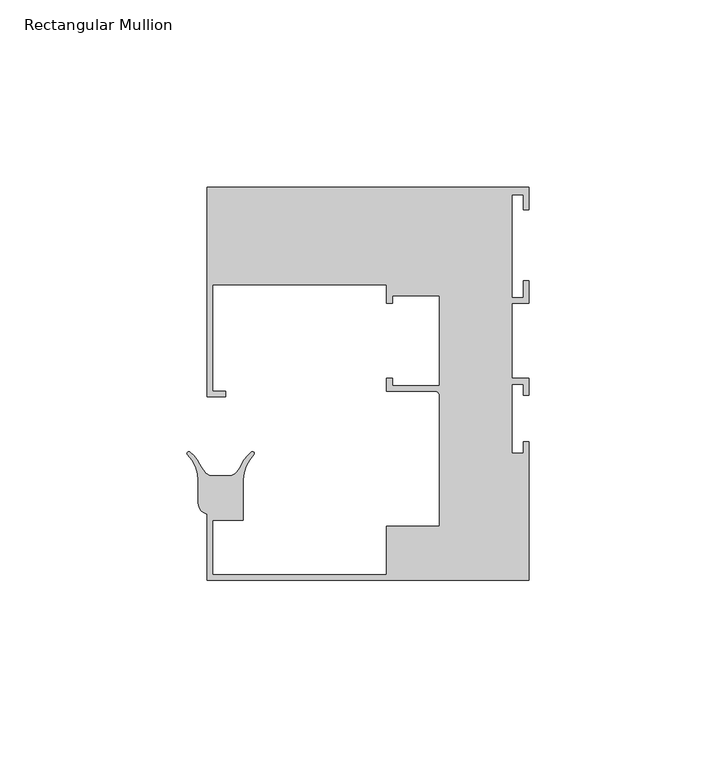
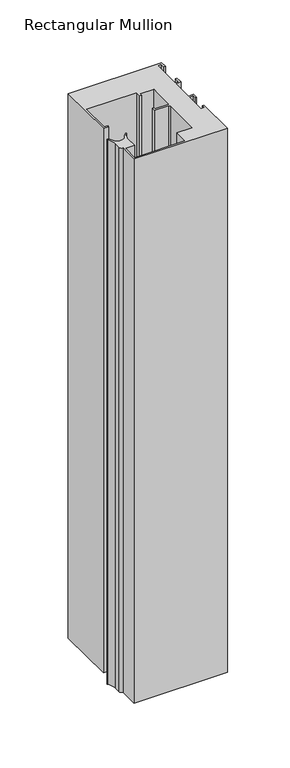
"""IFC4 building model written with IfcOpenShell, lengths in millimetres: member geometry, Rectangular Mullion : Danpal_Airpt_End-Mullion_B1."""

from ifc_helpers import new_model, si_unit, point, frame, frame_2d, origin, place, context, project, spatial, polyline, circle_curve, trimmed, segment, composite_curve, outline, extrude, source, transform, mapped, element, save


def rectangular_mullion_a8a568d6(model_context):
    return source(origin(), model_context, "Body", "SweptSolid", [
        extrude(outline(composite_curve([segment(polyline([(-84.5, 44.249979), (-84.5, 15.7500001), (-81.0, 15.7500001), (-81.0, 14.2500001), (-86.0, 14.2500001), (-86.0, 70.2500001), (0.0, 70.2500001), (0.0, 64.2500001), (-1.5, 64.2500001), (-1.5, 68.2500001), (-4.5, 68.2500001), (-4.5, 40.7500001), (-1.5180937, 40.7500001), (-1.5180937, 45.2500001), (-0.0180937, 45.2500001), (-0.0180937, 39.2500001), (-4.5, 39.2500001), (-4.5, 19.25), (-0.0180922, 19.25), (-0.0180922, 14.65), (-1.5180922, 14.65), (-1.5180922, 17.65), (-4.5180922, 17.65), (-4.5180922, -0.75), (-1.5180922, -0.75), (-1.5180922, 2.25), (-0.0180922, 2.25), (-0.0180922, -34.75), (-86.0180914, -34.75), (-86.0180914, -17.0365625)]), True, "CONTINUOUS"), segment(trimmed(circle_curve(frame_2d((-85.366716, -14.1081309)), 3.0000002), [point((-86.0180914, -17.0365625))], [point((-88.3666989, -14.1183419))], False, "CARTESIAN"), True, "CONTINUOUS"), segment(polyline([(-88.3666989, -14.1183419), (-88.3666989, -8.1181379)]), True, "CONTINUOUS"), segment(trimmed(circle_curve(frame_2d((-98.3666403, -8.1523787)), 10.0), [point((-88.3666989, -8.1181379))], [point((-91.1789286, -1.1999114))], True, "CARTESIAN"), True, "CONTINUOUS"), segment(trimmed(circle_curve(frame_2d((-90.8194227, -0.8521716)), 0.5001675), [point((-91.1789286, -1.1999114))], [point((-90.4970116, -0.4697862))], False, "CARTESIAN"), True, "CONTINUOUS"), segment(trimmed(circle_curve(frame_2d((-96.9430732, -8.114934)), 9.9999998), [point((-90.4970116, -0.4697862))], [point((-87.9289412, -3.785336))], False, "CARTESIAN"), True, "CONTINUOUS"), segment(trimmed(circle_curve(frame_2d((-78.9148092, 0.544262)), 9.9999997), [point((-87.9289412, -3.785336))], [point((-86.6990305, -5.7331494))], True, "CARTESIAN"), True, "CONTINUOUS"), segment(trimmed(circle_curve(frame_2d((-84.363764, -3.8499259)), 3.0), [point((-86.6990305, -5.7331494))], [point((-84.363764, -6.8499259))], True, "CARTESIAN"), True, "CONTINUOUS"), segment(polyline([(-84.363764, -6.8499259), (-80.32512, -6.8499259)]), True, "CONTINUOUS"), segment(trimmed(circle_curve(frame_2d((-80.32512, -3.8499259)), 3.0), [point((-80.32512, -6.8499259))], [point((-77.9898528, -5.7331484))], True, "CARTESIAN"), True, "CONTINUOUS"), segment(trimmed(circle_curve(frame_2d((-85.7740768, 0.5442599)), 10.0), [point((-77.9898528, -5.7331484))], [point((-76.759944, -3.7853369))], True, "CARTESIAN"), True, "CONTINUOUS"), segment(trimmed(circle_curve(frame_2d((-67.7458114, -8.1149337)), 9.9999997), [point((-76.759944, -3.7853369))], [point((-74.1944462, -0.4719563))], False, "CARTESIAN"), True, "CONTINUOUS"), segment(trimmed(circle_curve(frame_2d((-73.8718016, -0.8543575)), 0.5003301), [point((-74.1944462, -0.4719563))], [point((-73.5120728, -1.2021009))], False, "CARTESIAN"), True, "CONTINUOUS"), segment(trimmed(circle_curve(frame_2d((-66.322244, -8.1523787)), 10.0), [point((-73.5120728, -1.2021009))], [point((-76.3180945, -7.8643287))], True, "CARTESIAN"), True, "CONTINUOUS"), segment(polyline([(-76.3180945, -7.8643287), (-76.3180945, -18.6499969), (-84.5180945, -18.6499969), (-84.5180945, -33.2499969), (-38.0180899, -33.2499969), (-38.0180899, -20.2499969), (-23.9180899, -20.2499969), (-23.9180899, 14.698377)]), True, "CONTINUOUS"), segment(trimmed(circle_curve(frame_2d((-24.969716, 14.698377)), 1.0516261), [point((-23.9180899, 14.698377))], [point((-24.969716, 15.7500031))], True, "CARTESIAN"), True, "CONTINUOUS"), segment(polyline([(-24.969716, 15.7500031), (-38.0180899, 15.7500031), (-38.0180899, 19.2500031), (-36.4180899, 19.2500031), (-36.4180899, 17.2500031), (-23.9180899, 17.2500031), (-23.9180899, 41.2500001), (-36.4, 41.2500001), (-36.4, 39.2500001), (-38.0, 39.2500001), (-38.0, 44.249979), (-84.5, 44.249979)]), True, "CONTINUOUS")], self_intersect=False)), frame((0.0, 0.0, -530.2), z_axis=(0.0, 0.0, 1.0), x_axis=(1.0, 0.0, 0.0)), (0.0, 0.0, 1.0), 530.2),
    ])


if __name__ == "__main__":
    model = new_model("IFC4")
    model_context = context("Model", 3, world=origin())
    ifc_project = project(units=[si_unit("LENGTHUNIT", "METRE", prefix="MILLI")], contexts=[model_context])
    site = spatial("IfcSite", under=ifc_project)
    building = spatial("IfcBuilding", under=site)
    placement = place(None, origin())
    rectangular_mullion_shape = rectangular_mullion_a8a568d6(model_context)
    element("IfcMember", 1, ObjectType="Rectangular Mullion : Danpal_Airpt_End-Mullion_B1", at=placement, inside=building, context=model_context, shape_type="MappedRepresentation", body=[
        mapped(rectangular_mullion_shape, transform((0.0, 0.0, 0.0), x_axis=(1.0, 0.0, 0.0), y_axis=(0.0, 1.0, 0.0), z_axis=(0.0, 0.0, 1.0))),
    ])
    save(model, "model.ifc")
